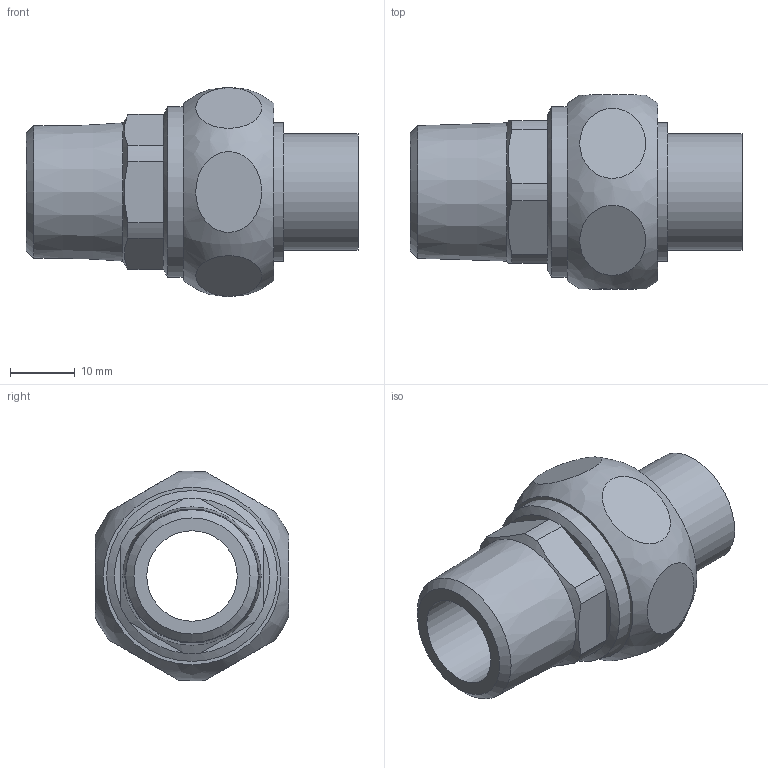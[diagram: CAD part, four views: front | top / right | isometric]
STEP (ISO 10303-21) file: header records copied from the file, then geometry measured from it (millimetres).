
FILE_DESCRIPTION((''),'2;1');
FILE_NAME('G:\Engineering\Public\RYSUNKI\SANHA POLSKA\4333g\step\14333g_15-12(1).stp','2014-02-18T06:49:20',('haldrzynski'),(''),'Autodesk Inventor 2009','Autodesk Inventor 2009','');
FILE_SCHEMA(('AUTOMOTIVE_DESIGN { 1 0 10303 214 1 1 1 1 }'));
Length unit declared in the file: millimetre
Products named in the file (5): 14333g_15-12(1); 14372_15-34(1); 14374_34(2); 14376G_12-34(2); 1DCU34
Assembly tree (4 placements, depth 2):
  14333g_15-12(1)
    14372_15-34(1)
    14374_34(2)
    14376G_12-34(2)
    1DCU34
Bounding box: 51.37 x 30 x 32.45 mm (x, y, z)
Volume: 14244.2 mm3; surface area: 10299.1 mm2
Topology: 4 solids, 4 shells, 55 faces, 99 edges, 62 vertices
Faces by surface type: plane 30, cylinder 18, cone 6, bspline 1
Full cylindrical faces by diameter (mm): 14 x2, 15 x1, 16 x1, 17 x1, 18 x1, 21.5 x1, 22.5 x1, 23 x1, 23.5 x1, 24.117 x1, 26.441 x1
Entity records: 2369 total; most frequent: CARTESIAN_POINT 1194, DIRECTION 240, ORIENTED_EDGE 156, AXIS2_PLACEMENT_3D 111, EDGE_LOOP 92, EDGE_CURVE 78, VERTEX_POINT 60, FACE_OUTER_BOUND 55
